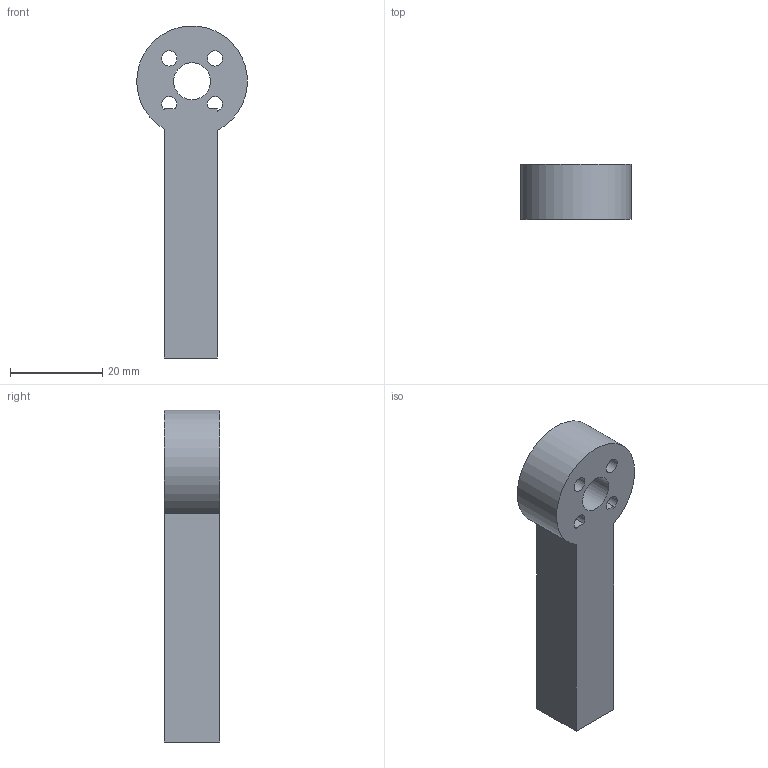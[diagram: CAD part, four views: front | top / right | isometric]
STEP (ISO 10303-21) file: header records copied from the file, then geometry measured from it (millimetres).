
FILE_DESCRIPTION(('Open CASCADE Model'),'2;1');
FILE_NAME('Open CASCADE Shape Model','2026-10-02T23:27:42',('Author'),( 'Open CASCADE'),'Open CASCADE STEP processor 7.9','Open CASCADE 7.9' ,'Unknown');
FILE_SCHEMA(('AUTOMOTIVE_DESIGN { 1 0 10303 214 1 1 1 1 }'));
Length unit declared in the file: millimetre
Products named in the file (1): Open CASCADE STEP translator 7.9 10
Bounding box: 23.97 x 12 x 71.98 mm (x, y, z)
Volume: 11127.7 mm3; surface area: 4743.2 mm2
Topology: 1 solids, 1 shells, 15 faces, 39 edges, 26 vertices
Faces by surface type: plane 9, cylinder 6
Full cylindrical faces by diameter (mm): 3.3 x2, 8 x1
Entity records: 1017 total; most frequent: CARTESIAN_POINT 225, DIRECTION 140, LINE 81, VECTOR 81, ORIENTED_EDGE 78, PCURVE 78, DEFINITIONAL_REPRESENTATION 78, EDGE_CURVE 39
